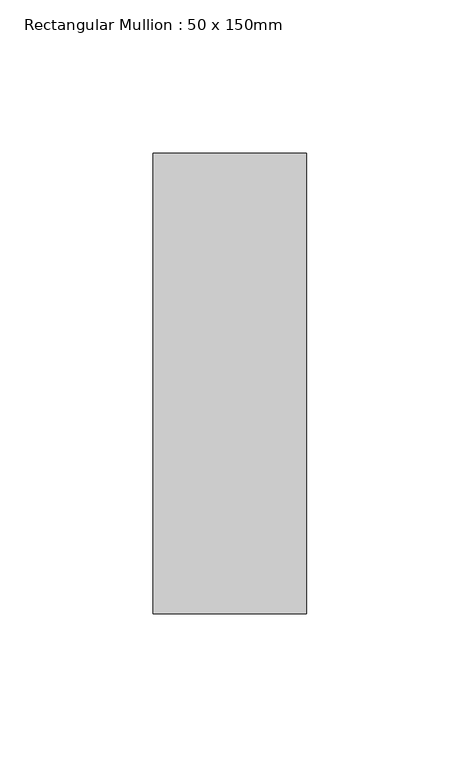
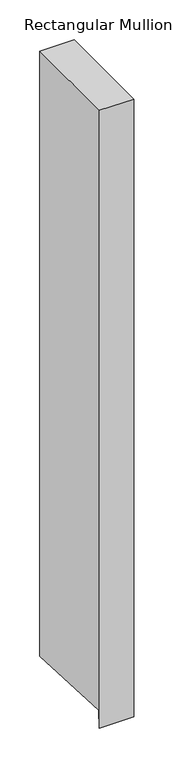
"""IFC4 building model written with IfcOpenShell, lengths in millimetres: member geometry, Rectangular Mullion : 50 x 150mm."""

import ifcopenshell
import ifcopenshell.guid

model = None  # the IFC model being written
_history = None  # IfcOwnerHistory: only IFC2X3 demands one
_inside = {}  # id of a spatial element -> (the spatial element, [elements in it])
_under = {}  # id of a project, library or spatial element -> (it, [spatial elements below it])
_declared = {}  # id of a project -> (the project, [libraries it declares])
_typed = {}  # id of a type object -> (the type object, [elements of that type])
_made_of = {}  # id of a material, layer set ... -> (it, [elements and type objects made of it])


def new_model(schema):
    """Start an empty IFC model of exactly this schema.

    Asked for "IFC4X3", IfcOpenShell would pick the latest addendum, in which some entities
    have other attributes; the version numbers below select the first issue.
    IFC2X3 requires an IfcOwnerHistory on every rooted entity: one is made here for all.
    """
    global model, _history
    if schema == "IFC4X3":
        model = ifcopenshell.file(schema_version=(4, 3, 0, 0))
    else:
        model = ifcopenshell.file(schema=schema)
    _inside.clear()
    _under.clear()
    _declared.clear()
    _typed.clear()
    _made_of.clear()
    _history = None
    if model.schema == "IFC2X3":
        org = make("IfcOrganization", Name="unknown")
        user = make(
            "IfcPersonAndOrganization",
            ThePerson=make("IfcPerson", FamilyName="unknown"),
            TheOrganization=org,
        )
        app = make(
            "IfcApplication",
            ApplicationDeveloper=org,
            Version="unknown",
            ApplicationFullName="unknown",
            ApplicationIdentifier="unknown",
        )
        _history = make(
            "IfcOwnerHistory",
            OwningUser=user,
            OwningApplication=app,
            ChangeAction="ADDED",
            CreationDate=0,
        )
    return model


def make(cls, **values):
    """One entity of the class cls with the attributes given. An attribute that is None is left unset."""
    return model.create_entity(
        cls, **{name: value for name, value in values.items() if value is not None}
    )


def rooted(cls, **values):
    """An entity with a GlobalId (a new one), such as an element, a storey or a relation."""
    return make(cls, GlobalId=ifcopenshell.guid.new(), OwnerHistory=_history, **values)


def si_unit(unit_type, name, prefix=None):
    """IfcSIUnit, for example si_unit("LENGTHUNIT", "METRE", prefix="MILLI")."""
    return make("IfcSIUnit", UnitType=unit_type, Prefix=prefix, Name=name)


def assignment(units):
    """IfcUnitAssignment: the units of a project."""
    return None if units is None else make("IfcUnitAssignment", Units=units)


def point(xyz):
    """IfcCartesianPoint."""
    return None if xyz is None else make("IfcCartesianPoint", Coordinates=xyz)


def direction(xyz):
    """IfcDirection."""
    return None if xyz is None else make("IfcDirection", DirectionRatios=xyz)


def frame(location, z_axis=None, x_axis=None):
    """IfcAxis2Placement3D, a coordinate frame: its origin and axes. An axis left out is left unset."""
    return make(
        "IfcAxis2Placement3D",
        Location=point(location),
        Axis=direction(z_axis),
        RefDirection=direction(x_axis),
    )


def origin():
    """The frame at (0, 0, 0) with its axes left unset."""
    return frame((0.0, 0.0, 0.0))


def place(relative_to, where):
    """IfcLocalPlacement: puts the frame where relative to a parent placement (None: the world)."""
    return make(
        "IfcLocalPlacement", PlacementRelTo=relative_to, RelativePlacement=where
    )


def context(
    kind, dimensions, precision=None, world=None, true_north=None, identifier=None
):
    """IfcGeometricRepresentationContext, for example the 3D "Model" context."""
    return make(
        "IfcGeometricRepresentationContext",
        ContextIdentifier=identifier,
        ContextType=kind,
        CoordinateSpaceDimension=dimensions,
        Precision=precision,
        WorldCoordinateSystem=world,
        TrueNorth=true_north,
    )


def project(units=None, contexts=None):
    """IfcProject with its units and contexts."""
    return rooted(
        "IfcProject",
        Name="project",
        RepresentationContexts=contexts,
        UnitsInContext=assignment(units),
    )


def spatial(cls, under=None, at=None, **own):
    """A site, building, storey or space (cls), placed at a placement, below another one or the project."""
    s = rooted(cls, ObjectPlacement=at, **own)
    if under is not None:
        _under.setdefault(under.id(), (under, []))[1].append(s)
    return s


def polyline(points):
    """IfcPolyline through the points."""
    return make("IfcPolyline", Points=[point(p) for p in points])


def outline(outer, holes=None, kind="AREA"):
    """IfcArbitraryClosedProfileDef: a profile drawn as a closed curve; with holes, ...WithVoids."""
    if holes is None:
        return make("IfcArbitraryClosedProfileDef", ProfileType=kind, OuterCurve=outer)
    return make(
        "IfcArbitraryProfileDefWithVoids",
        ProfileType=kind,
        OuterCurve=outer,
        InnerCurves=holes,
    )


def extrude(swept, where, along, depth):
    """IfcExtrudedAreaSolid: the profile swept, set in the frame where, extruded along a direction by depth."""
    return make(
        "IfcExtrudedAreaSolid",
        SweptArea=swept,
        Position=where,
        ExtrudedDirection=direction(along),
        Depth=depth,
    )


def shape(context_of_items, identifier, shape_type, items):
    """IfcShapeRepresentation: the items that make up one representation, for example the "Body"."""
    return make(
        "IfcShapeRepresentation",
        ContextOfItems=context_of_items,
        RepresentationIdentifier=identifier,
        RepresentationType=shape_type,
        Items=items,
    )


def source(mapping_origin, context_of_items, identifier, shape_type, items):
    """IfcRepresentationMap: a shape defined once, which mapped items show again and again."""
    return make(
        "IfcRepresentationMap",
        MappingOrigin=mapping_origin,
        MappedRepresentation=shape(context_of_items, identifier, shape_type, items),
    )


def transform(
    local_origin,
    x_axis=None,
    y_axis=None,
    z_axis=None,
    scale=None,
    scale2=None,
    scale3=None,
    uniform=True,
):
    """IfcCartesianTransformationOperator3D, or its non-uniform kind. x_axis, y_axis, z_axis: its Axis1, 2, 3."""
    if uniform:
        return make(
            "IfcCartesianTransformationOperator3D",
            Axis1=direction(x_axis),
            Axis2=direction(y_axis),
            LocalOrigin=point(local_origin),
            Scale=scale,
            Axis3=direction(z_axis),
        )
    return make(
        "IfcCartesianTransformationOperator3DnonUniform",
        Axis1=direction(x_axis),
        Axis2=direction(y_axis),
        LocalOrigin=point(local_origin),
        Scale=scale,
        Axis3=direction(z_axis),
        Scale2=scale2,
        Scale3=scale3,
    )


def mapped(mapping_source, mapping_target):
    """IfcMappedItem: shows the shape of a source again, moved by a transform."""
    return make(
        "IfcMappedItem", MappingSource=mapping_source, MappingTarget=mapping_target
    )


def made_of(thing, what):
    """Note that an element or type object is made of a material, layer set ...; save() writes the relation."""
    if what is not None:
        _made_of.setdefault(what.id(), (what, []))[1].append(thing)
    return thing


def element(
    cls,
    number,
    at=None,
    inside=None,
    cuts=None,
    type_object=None,
    material=None,
    context=None,
    identifier="Body",
    shape_type=None,
    held_by="IfcProductDefinitionShape",
    body=None,
    shapes=None,
    **own,
):
    """One element of the class cls, such as IfcWall. Its Tag is "e" and its number.

    at: its placement. inside: the storey or other place that contains it. cuts: it is an
    opening in that element (IfcRelVoidsElement). A single representation is given by context,
    identifier, shape_type and body (its items); several are given by shapes. held_by: the class
    of the entity that holds the representations. save() writes the other relations.
    """
    e = rooted(cls, Tag="e%d" % number, ObjectPlacement=at, **own)
    if body is not None:
        shapes = [shape(context, identifier, shape_type, body)]
    if shapes is not None:
        e.Representation = make(held_by, Representations=shapes)
    if inside is not None:
        _inside.setdefault(inside.id(), (inside, []))[1].append(e)
    if cuts is not None:
        rooted(
            "IfcRelVoidsElement", RelatingBuildingElement=cuts, RelatedOpeningElement=e
        )
    if type_object is not None:
        _typed.setdefault(type_object.id(), (type_object, []))[1].append(e)
    return made_of(e, material)


def aggregate(whole, parts):
    """IfcRelAggregates: a whole, such as a stair, and the parts it consists of."""
    return rooted("IfcRelAggregates", RelatingObject=whole, RelatedObjects=parts)


def save(model, path):
    """Write the relations noted so far, then the file.

    IfcRelAggregates (storeys below a building ...), IfcRelContainedInSpatialStructure (elements
    in a storey), IfcRelDefinesByType, IfcRelAssociatesMaterial and IfcRelDeclares: one each for
    every whole, place, type object, material and project.
    """
    for whole, parts in _under.values():
        aggregate(whole, parts)
    for where, things in _inside.values():
        rooted(
            "IfcRelContainedInSpatialStructure",
            RelatedElements=things,
            RelatingStructure=where,
        )
    for kind, things in _typed.values():
        rooted("IfcRelDefinesByType", RelatedObjects=things, RelatingType=kind)
    for what, things in _made_of.values():
        rooted("IfcRelAssociatesMaterial", RelatedObjects=things, RelatingMaterial=what)
    for by, libraries in _declared.values():
        rooted("IfcRelDeclares", RelatingContext=by, RelatedDefinitions=libraries)
    model.write(path)


def rectangular_mullion_50_x_150mm_94e348ba(model_context):
    return source(origin(), model_context, "Body", "SweptSolid", [
        extrude(outline(polyline([(-75.0, 0.0), (75.0, 0.0), (75.0, -928.7233876), (-73.6561913, -921.2812696), (-75.0, -948.1238267), (-75.0, 0.0)])), frame((-50.0, 0.0, 0.0), z_axis=(1.0, 0.0, 0.0), x_axis=(0.0, 1.0, 0.0)), (0.0, 0.0, 1.0), 50.0),
    ])


if __name__ == "__main__":
    model = new_model("IFC4")
    model_context = context("Model", 3, world=origin())
    ifc_project = project(units=[si_unit("LENGTHUNIT", "METRE", prefix="MILLI")], contexts=[model_context])
    site = spatial("IfcSite", under=ifc_project)
    building = spatial("IfcBuilding", under=site)
    placement = place(None, origin())
    rectangular_mullion_50_x_150mm_shape = rectangular_mullion_50_x_150mm_94e348ba(model_context)
    element("IfcMember", 1, ObjectType="Rectangular Mullion : 50 x 150mm", at=placement, inside=building, context=model_context, shape_type="MappedRepresentation", body=[
        mapped(rectangular_mullion_50_x_150mm_shape, transform((0.0, 0.0, 0.0), x_axis=(1.0, 0.0, 0.0), y_axis=(0.0, 1.0, 0.0), z_axis=(0.0, 0.0, 1.0))),
    ])
    save(model, "model.ifc")
